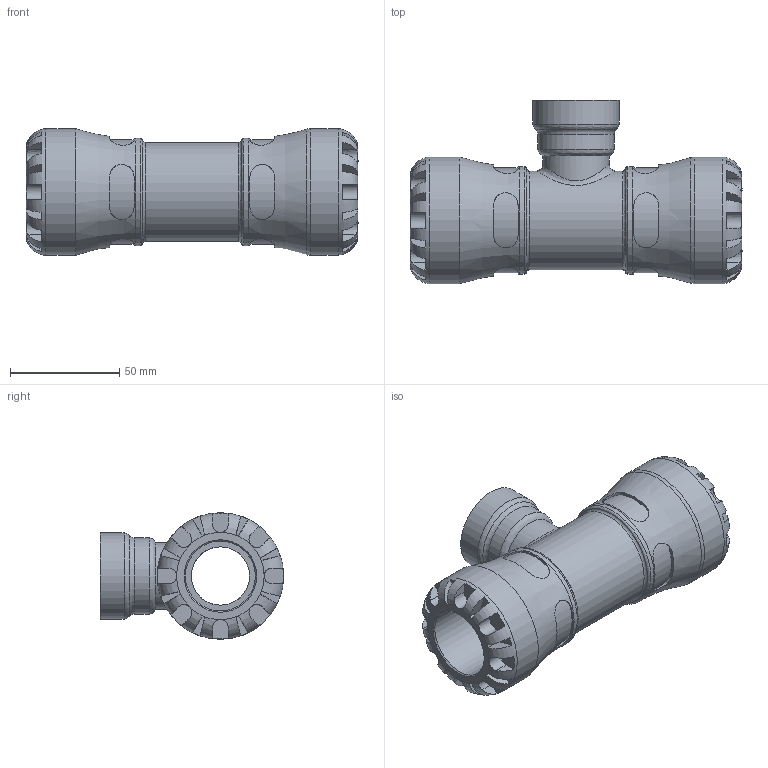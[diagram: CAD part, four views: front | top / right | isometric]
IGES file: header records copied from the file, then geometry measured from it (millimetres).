
Global section: file name: 101400032010_191400032010.ipt; native system: Autodesk Inventor 2015; preprocessor: unknown; author: KIM; date: 20170130.090644; units: millimetre
Bounding box: 152 x 84 x 58 mm (x, y, z)
Volume: 203549.7 mm3; surface area: 53206.8 mm2
Topology: 1 solids, 1 shells, 202 faces, 527 edges, 337 vertices
Faces by surface type: plane 118, revolution 51, cylinder 32, bspline 1
Full cylindrical faces by diameter (mm): 30.291 x1, 34.835 x1, 39.378 x1, 45.24 x1, 49.3 x2, 58 x2
